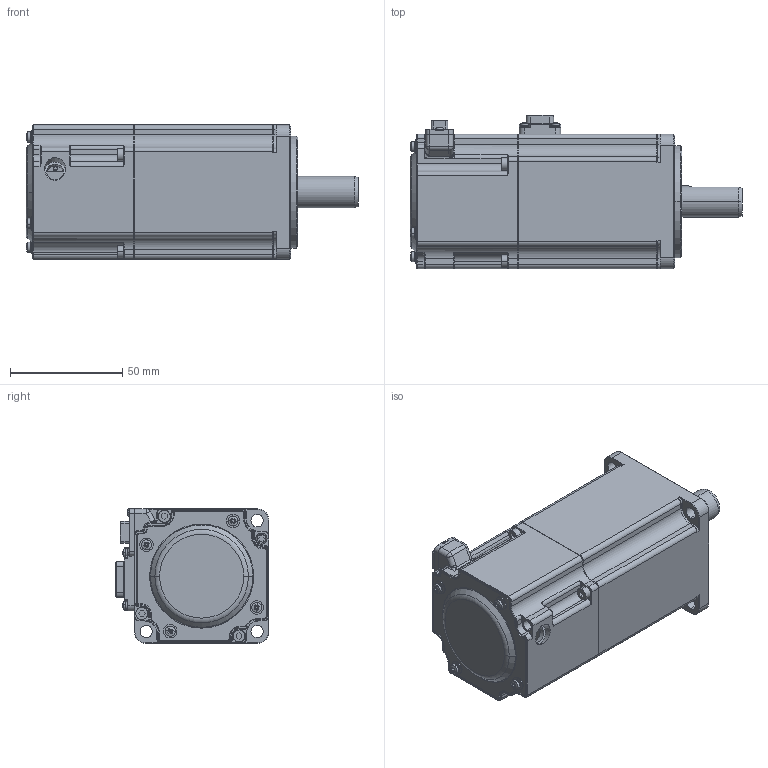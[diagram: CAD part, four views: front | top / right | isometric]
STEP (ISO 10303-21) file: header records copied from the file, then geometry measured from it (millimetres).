
FILE_DESCRIPTION (( 'STEP AP214' ), '1' );
FILE_NAME ('ACM2 É²³µµç»ú-400WÖ±²å.STEP', '2022-09-17T08:58:29', ( '' ), ( '' ), 'SwSTEP 2.0', 'SolidWorks 2021', '' );
FILE_SCHEMA (( 'AUTOMOTIVE_DESIGN' ));
Length unit declared in the file: millimetre
Products named in the file (1): ACM2 价陬萇儂-400W眻脣
Bounding box: 148.2 x 68.6 x 60.1 mm (x, y, z)
Surface area: 44359.3 mm2 (no closed solid volume)
Topology: 0 solids, 51 shells, 1151 faces, 3728 edges, 2547 vertices
Faces by surface type: plane 515, cylinder 374, torus 110, cone 107, bspline 27, sphere 18
Entity records: 55003 total; most frequent: CARTESIAN_POINT 10013, DIRECTION 7079, ORIENTED_EDGE 5964, EDGE_CURVE 3707, AXIS2_PLACEMENT_3D 2605, VERTEX_POINT 2547, LINE 1869, VECTOR 1869
